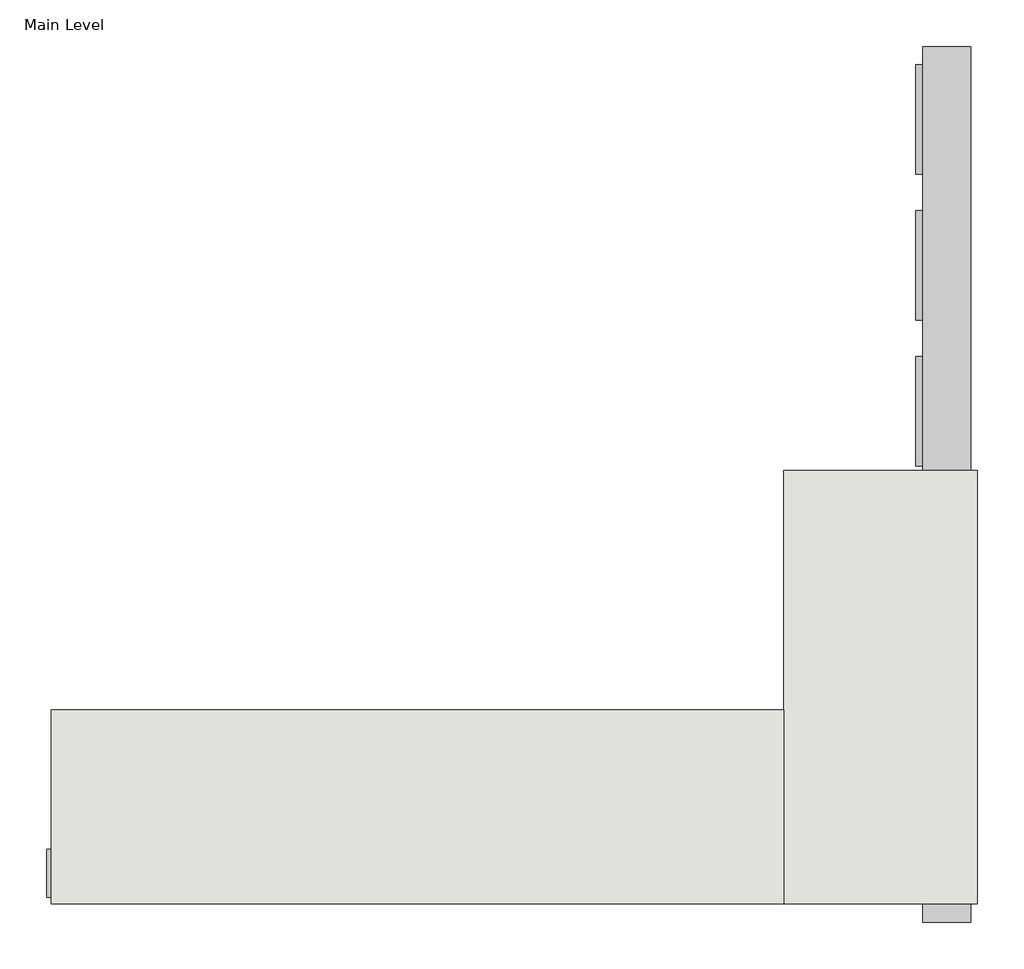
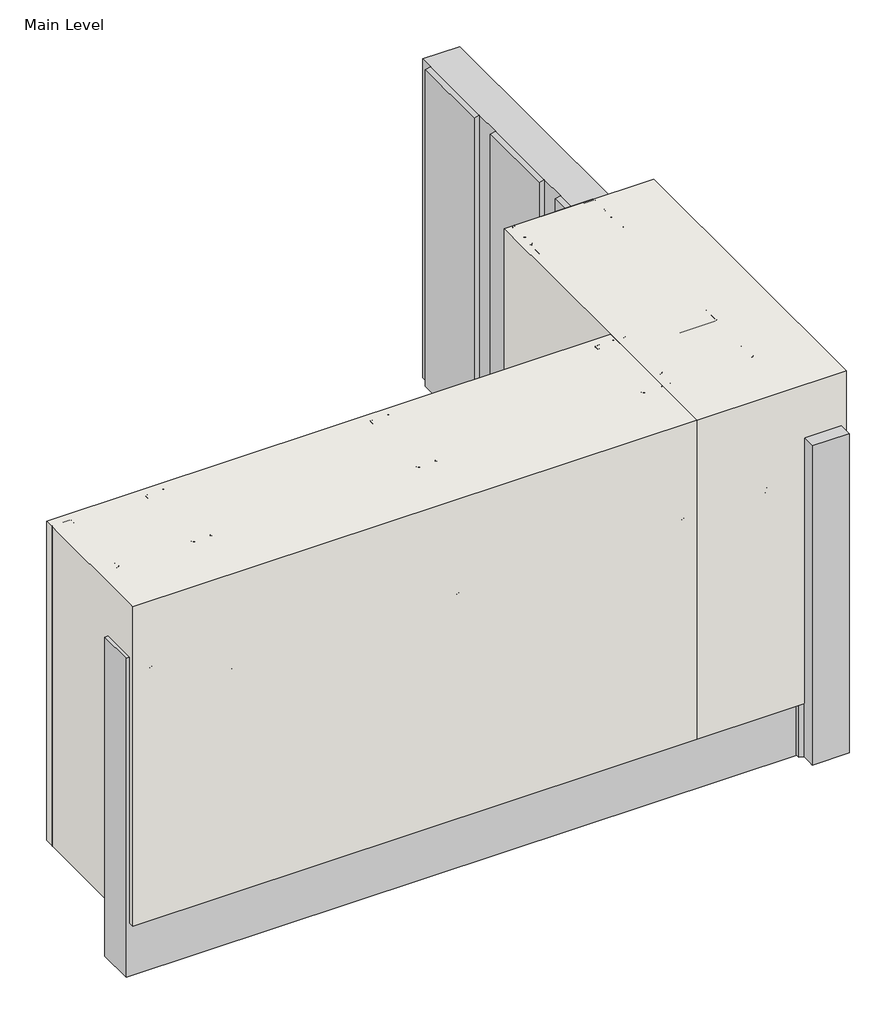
# One storey, incomplete: 22 proxies, 2 walls.
"""IFC4 building model written with IfcOpenShell, lengths in millimetres."""

from ifc_helpers import new_model, si_unit, origin, origin_with_axes, place, context, project, spatial, polyline, outline, extrude, faceted_brep, transform, mapped, element, save
from components import generic_models_03ec6e0e, generic_models_8c792c9c, generic_models_b823fbf1, generic_models_259c97a0, proxy_215900e5, proxy_63d6b373, proxy_d4c17246

model = new_model("IFC4")

# Units and contexts
model_context = context("Model", 3, world=origin())
ifc_project = project(units=[si_unit("LENGTHUNIT", "METRE", prefix="MILLI")], contexts=[model_context])

# Site, building, storey
site = spatial("IfcSite", under=ifc_project)
building = spatial("IfcBuilding", under=site)
storey = spatial("IfcBuildingStorey", under=building, Name="Main Level", Elevation=0.0)

# Proxies
placement = place(None, origin())
generic_models_shape = generic_models_03ec6e0e(model_context)
element("IfcBuildingElementProxy", 1, Name="CRAi Generic Model Drywall Screw : CRAi Generic Model Drywall Screw", ObjectType="CRAi Generic Model Drywall Screw : CRAi Generic Model Drywall Screw", at=placement, inside=storey, context=model_context, shape_type="MappedRepresentation", body=[
    mapped(generic_models_shape, transform((27215.4539273, 633.9816297, 584.2), x_axis=(1.0, 0.0, 0.0), y_axis=(0.0, 0.0, 1.0), z_axis=(0.0, -1.0, 0.0))),
])
element("IfcBuildingElementProxy", 2, Name="CRAi Generic Model Drywall Screw : CRAi Generic Model Drywall Screw", ObjectType="CRAi Generic Model Drywall Screw : CRAi Generic Model Drywall Screw", at=placement, inside=storey, context=model_context, shape_type="MappedRepresentation", body=[
    mapped(generic_models_shape, transform((27415.4789273, 1075.3066297, 584.2), x_axis=(0.0, 1.0, 0.0), y_axis=(0.0, 0.0, 1.0), z_axis=(1.0, 0.0, 0.0))),
])
element("IfcBuildingElementProxy", 3, Name="CRAi Generic Model Drywall Screw : CRAi Generic Model Drywall Screw", ObjectType="CRAi Generic Model Drywall Screw : CRAi Generic Model Drywall Screw", at=placement, inside=storey, context=model_context, shape_type="MappedRepresentation", body=[
    mapped(generic_models_shape, transform((27415.4789273, 783.2066297, 584.2), x_axis=(0.0, 1.0, 0.0), y_axis=(0.0, 0.0, 1.0), z_axis=(1.0, 0.0, 0.0))),
])
element("IfcBuildingElementProxy", 4, Name="CRAi Generic Model Drywall Screw : CRAi Generic Model Drywall Screw", ObjectType="CRAi Generic Model Drywall Screw : CRAi Generic Model Drywall Screw", at=placement, inside=storey, context=model_context, shape_type="MappedRepresentation", body=[
    mapped(generic_models_shape, transform((27415.4789273, 675.2566297, 584.2), x_axis=(0.0, 1.0, 0.0), y_axis=(0.0, 0.0, 1.0), z_axis=(1.0, 0.0, 0.0))),
])
element("IfcBuildingElementProxy", 5, Name="CRAi Generic Model Drywall Screw : CRAi Generic Model Drywall Screw", ObjectType="CRAi Generic Model Drywall Screw : CRAi Generic Model Drywall Screw", at=placement, inside=storey, context=model_context, shape_type="MappedRepresentation", body=[
    mapped(generic_models_shape, transform((27380.5539273, 633.9816297, 584.2), x_axis=(1.0, 0.0, 0.0), y_axis=(0.0, 0.0, 1.0), z_axis=(0.0, -1.0, 0.0))),
])
element("IfcBuildingElementProxy", 6, Name="CRAi Generic Model Drywall Screw : CRAi Generic Model Drywall Screw", ObjectType="CRAi Generic Model Drywall Screw : CRAi Generic Model Drywall Screw", at=placement, inside=storey, context=model_context, shape_type="MappedRepresentation", body=[
    mapped(generic_models_shape, transform((26809.0539273, 633.9816297, 584.2), x_axis=(1.0, 0.0, 0.0), y_axis=(0.0, 0.0, 1.0), z_axis=(0.0, -1.0, 0.0))),
])
element("IfcBuildingElementProxy", 7, Name="CRAi Generic Model Drywall Screw : CRAi Generic Model Drywall Screw", ObjectType="CRAi Generic Model Drywall Screw : CRAi Generic Model Drywall Screw", at=placement, inside=storey, context=model_context, shape_type="MappedRepresentation", body=[
    mapped(generic_models_shape, transform((26402.6539273, 633.9816297, 584.2), x_axis=(1.0, 0.0, 0.0), y_axis=(0.0, 0.0, 1.0), z_axis=(0.0, -1.0, 0.0))),
])
generic_models_2_shape = generic_models_8c792c9c(model_context)
element("IfcBuildingElementProxy", 8, Name="Durabond Generic Model Screw w Standard Wall Plate : Durabond Generic Model Screw w Standard Wall Plate", ObjectType="Durabond Generic Model Screw w Standard Wall Plate : Durabond Generic Model Screw w Standard Wall Plate", at=placement, inside=storey, context=model_context, shape_type="MappedRepresentation", body=[
    mapped(generic_models_2_shape, transform((27367.8539273, 550.6378797, 419.1), x_axis=(1.0, 0.0, 0.0), y_axis=(0.0, 0.0, 1.0), z_axis=(0.0, -1.0, 0.0))),
])
element("IfcBuildingElementProxy", 9, Name="Durabond Generic Model Screw w Standard Wall Plate : Durabond Generic Model Screw w Standard Wall Plate", ObjectType="Durabond Generic Model Screw w Standard Wall Plate : Durabond Generic Model Screw w Standard Wall Plate", at=placement, inside=storey, context=model_context, shape_type="MappedRepresentation", body=[
    mapped(generic_models_2_shape, transform((27215.4539273, 550.6378797, 419.1), x_axis=(1.0, 0.0, 0.0), y_axis=(0.0, 0.0, 1.0), z_axis=(0.0, -1.0, 0.0))),
])
element("IfcBuildingElementProxy", 10, Name="Durabond Generic Model Screw w Standard Wall Plate : Durabond Generic Model Screw w Standard Wall Plate", ObjectType="Durabond Generic Model Screw w Standard Wall Plate : Durabond Generic Model Screw w Standard Wall Plate", at=placement, inside=storey, context=model_context, shape_type="MappedRepresentation", body=[
    mapped(generic_models_2_shape, transform((26809.0539273, 550.6378797, 419.1), x_axis=(1.0, 0.0, 0.0), y_axis=(0.0, 0.0, 1.0), z_axis=(0.0, -1.0, 0.0))),
])
element("IfcBuildingElementProxy", 11, Name="Durabond Generic Model Screw w Standard Wall Plate : Durabond Generic Model Screw w Standard Wall Plate", ObjectType="Durabond Generic Model Screw w Standard Wall Plate : Durabond Generic Model Screw w Standard Wall Plate", at=placement, inside=storey, context=model_context, shape_type="MappedRepresentation", body=[
    mapped(generic_models_2_shape, transform((26402.6539273, 550.6378797, 419.1), x_axis=(1.0, 0.0, 0.0), y_axis=(0.0, 0.0, 1.0), z_axis=(0.0, -1.0, 0.0))),
])
element("IfcBuildingElementProxy", 12, Name="Durabond Generic Model Screw w Standard Wall Plate : Durabond Generic Model Screw w Standard Wall Plate", ObjectType="Durabond Generic Model Screw w Standard Wall Plate : Durabond Generic Model Screw w Standard Wall Plate", at=placement, inside=storey, context=model_context, shape_type="MappedRepresentation", body=[
    mapped(generic_models_2_shape, transform((27323.4039273, 554.6066297, 469.9), x_axis=(1.0, 0.0, 0.0), y_axis=(0.0, 0.0, 1.0), z_axis=(0.0, -1.0, 0.0))),
])
element("IfcBuildingElementProxy", 13, Name="Durabond Generic Model Screw w Standard Wall Plate : Durabond Generic Model Screw w Standard Wall Plate", ObjectType="Durabond Generic Model Screw w Standard Wall Plate : Durabond Generic Model Screw w Standard Wall Plate", at=placement, inside=storey, context=model_context, shape_type="MappedRepresentation", body=[
    mapped(generic_models_2_shape, transform((26256.6039273, 554.6066297, 469.9), x_axis=(1.0, 0.0, 0.0), y_axis=(0.0, 0.0, 1.0), z_axis=(0.0, -1.0, 0.0))),
])
element("IfcBuildingElementProxy", 14, Name="Durabond Generic Model Screw w Standard Wall Plate : Durabond Generic Model Screw w Standard Wall Plate", ObjectType="Durabond Generic Model Screw w Standard Wall Plate : Durabond Generic Model Screw w Standard Wall Plate", at=placement, inside=storey, context=model_context, shape_type="MappedRepresentation", body=[
    mapped(generic_models_2_shape, transform((27494.8539273, 783.2066297, 469.9), x_axis=(0.0, 1.0, 0.0), y_axis=(0.0, 0.0, 1.0), z_axis=(1.0, 0.0, 0.0))),
])
element("IfcBuildingElementProxy", 15, Name="Durabond Generic Model Screw w Standard Wall Plate : Durabond Generic Model Screw w Standard Wall Plate", ObjectType="Durabond Generic Model Screw w Standard Wall Plate : Durabond Generic Model Screw w Standard Wall Plate", at=placement, inside=storey, context=model_context, shape_type="MappedRepresentation", body=[
    mapped(generic_models_2_shape, transform((27498.8226773, 668.9066297, 419.1), x_axis=(0.0, 1.0, 0.0), y_axis=(0.0, 0.0, 1.0), z_axis=(1.0, 0.0, 0.0))),
])
element("IfcBuildingElementProxy", 16, Name="Durabond Generic Model Screw w Standard Wall Plate : Durabond Generic Model Screw w Standard Wall Plate", ObjectType="Durabond Generic Model Screw w Standard Wall Plate : Durabond Generic Model Screw w Standard Wall Plate", at=placement, inside=storey, context=model_context, shape_type="MappedRepresentation", body=[
    mapped(generic_models_2_shape, transform((27498.8226773, 1081.6566297, 419.1), x_axis=(0.0, 1.0, 0.0), y_axis=(0.0, 0.0, 1.0), z_axis=(1.0, 0.0, 0.0))),
])
generic_models_3_shape = generic_models_b823fbf1(model_context)
element("IfcBuildingElementProxy", 17, Name="Durabond Generic Model Metal Stud Array Right : CRAi Generic Model Metal Stud Array", ObjectType="Durabond Generic Model Metal Stud Array Right : CRAi Generic Model Metal Stud Array", at=placement, inside=storey, context=model_context, shape_type="MappedRepresentation", body=[
    mapped(generic_models_3_shape, transform((24765.9289273, 726.0566297, 0.0), x_axis=(1.0, 0.0, 0.0), y_axis=(0.0, 1.0, 0.0), z_axis=(0.0, 0.0, 1.0))),
])
generic_models_4_shape = generic_models_259c97a0(model_context)
element("IfcBuildingElementProxy", 18, Name="Durabond Generic Model Metal Stud Array Right : CRAi Generic Model Metal Stud Array", ObjectType="Durabond Generic Model Metal Stud Array Right : CRAi Generic Model Metal Stud Array", at=placement, inside=storey, context=model_context, shape_type="MappedRepresentation", body=[
    mapped(generic_models_4_shape, transform((27323.4039273, 3118.4316297, 0.0), x_axis=(0.0, -1.0, 0.0), y_axis=(1.0, 0.0, 0.0), z_axis=(0.0, 0.0, 1.0))),
])
proxy_shape = proxy_215900e5(model_context)
element("IfcBuildingElementProxy", 19, Name="Durabond Generic Model Insulite Select Extruded Insulation Board : 3\"", ObjectType="Durabond Generic Model Insulite Select Extruded Insulation Board : 3\"", at=placement, inside=storey, context=model_context, shape_type="MappedRepresentation", body=[
    mapped(proxy_shape, transform((26818.5789273, 630.8066297, 203.2), x_axis=(1.0, 0.0, 0.0), y_axis=(0.0, 0.0, 1.0), z_axis=(0.0, -1.0, 0.0))),
])
element("IfcBuildingElementProxy", 20, Name="Durabond Generic Model Insulite Select Extruded Insulation Board : 3\"", ObjectType="Durabond Generic Model Insulite Select Extruded Insulation Board : 3\"", at=placement, inside=storey, context=model_context, shape_type="MappedRepresentation", body=[
    mapped(proxy_shape, transform((27418.6539273, 1129.2816297, 203.2), x_axis=(0.0, 1.0, 0.0), y_axis=(0.0, 0.0, 1.0), z_axis=(1.0, 0.0, 0.0))),
])
proxy_2_shape = proxy_63d6b373(model_context)
element("IfcBuildingElementProxy", 21, Name="Durabond Generic Model Corner 90 Membrane : 4\" Barrier Seam Tape", ObjectType="Durabond Generic Model Corner 90 Membrane : 4\" Barrier Seam Tape", at=placement, inside=storey, context=model_context, shape_type="MappedRepresentation", body=[
    mapped(proxy_2_shape, transform((27415.4789273, 633.9816297, 0.0), x_axis=(1.0, 0.0, 0.0), y_axis=(0.0, 1.0, 0.0), z_axis=(0.0, 0.0, 1.0))),
])
proxy_3_shape = proxy_d4c17246(model_context)
element("IfcBuildingElementProxy", 22, Name="CRAi Generic Model Metal Stud : Metal Framing Stud - 1\" x 3.5\"", ObjectType="CRAi Generic Model Metal Stud : Metal Framing Stud - 1\" x 3.5\"", at=placement, inside=storey, context=model_context, shape_type="MappedRepresentation", body=[
    mapped(proxy_3_shape, transform((27323.4039273, 783.2066297, 0.0), x_axis=(0.0, 1.0, 0.0), y_axis=(-1.0, 0.0, 0.0), z_axis=(0.0, 0.0, 1.0))),
])

# Walls
element("IfcWall", 23, ObjectType="(No adhesive) 189mm (7.5”) EIFS Field Applied on Mtl. Stud Layer - 50mm Grooved Insulation Board Metal Stud Wall(AirStop", at=placement, inside=storey, context=model_context, shape_type="SweptSolid", body=[
    extrude(outline(polyline([(27234.5039273, 545.0816297), (26215.3289273, 545.0816297), (26215.3289273, 814.9566297), (27234.5039273, 814.9566297), (27234.5039273, 545.0816297)])), origin_with_axes(), (0.0, 0.0, 1.0), 609.6),
])
element("IfcWall", 24, ObjectType="(No adhesive) 189mm (7.5”) EIFS Field Applied on Mtl. Stud Layer - 50mm Grooved Insulation Board Metal Stud Wall(AirStop", at=placement, inside=storey, context=model_context, shape_type="Brep", body=[
    faceted_brep([(27504.3789273, 545.0816297, 0.0), (27504.3789273, 1148.3316297, 0.0), (27504.3789273, 1148.3316297, 609.6), (27504.3789273, 545.0816297, 609.6), (27234.5039273, 545.0816297, 0.0), (27234.5039273, 545.0816297, 609.6), (27234.5039273, 814.9566297, 609.6), (27234.5039273, 1148.3316297, 609.6), (27234.5039273, 1148.3316297, 0.0), (27234.5039273, 814.9566297, 0.0)], [[[0, 1, 2, 3]], [[4, 5, 6, 7, 8, 9]], [[1, 0, 4, 9, 8]], [[2, 1, 8, 7]], [[3, 2, 7, 6, 5]], [[0, 3, 5, 4]]]),
])

save(model, "model.ifc")
